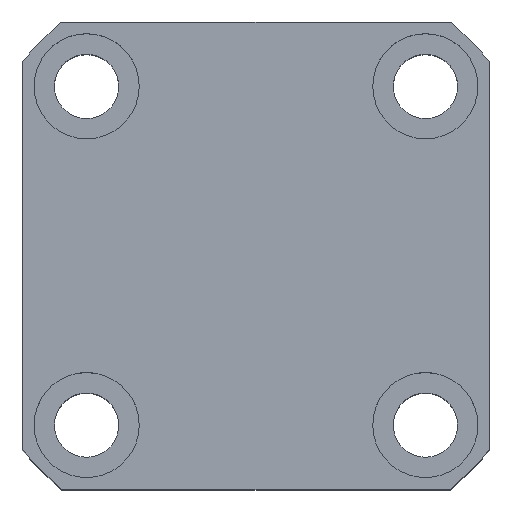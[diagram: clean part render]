
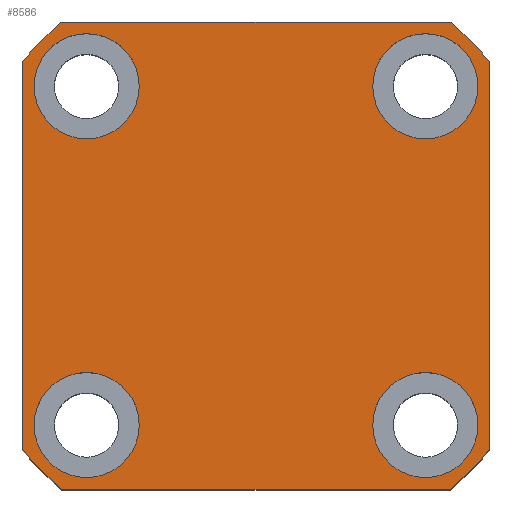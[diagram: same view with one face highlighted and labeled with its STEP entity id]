
A CAD part, top view. The second image highlights one B-rep face of the part: STEP entity #8586.
In plain terms, the highlighted planar face has unit normal (0, 0, 1).
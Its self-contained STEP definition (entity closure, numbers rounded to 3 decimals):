
#31 = DIRECTION ( 'NONE',  ( 1., 0., 0. ) ) ;
#62 = VERTEX_POINT ( 'NONE', #6701 ) ;
#151 = DIRECTION ( 'NONE',  ( 0., 0., 1. ) ) ;
#226 = EDGE_CURVE ( 'NONE', #2423, #568, #3670, .T. ) ;
#261 = FACE_BOUND ( 'NONE', #9337, .T. ) ;
#295 = DIRECTION ( 'NONE',  ( 0., 0., 1. ) ) ;
#407 = CARTESIAN_POINT ( 'NONE',  ( -33.226, -40., 35. ) ) ;
#480 = CARTESIAN_POINT ( 'NONE',  ( 0., 0., 35. ) ) ;
#497 = ORIENTED_EDGE ( 'NONE', *, *, #9793, .T. ) ;
#568 = VERTEX_POINT ( 'NONE', #3594 ) ;
#768 = CARTESIAN_POINT ( 'NONE',  ( -40., -33.226, 35. ) ) ;
#905 = LINE ( 'NONE', #2564, #3595 ) ;
#914 = ORIENTED_EDGE ( 'NONE', *, *, #6202, .F. ) ;
#962 = ORIENTED_EDGE ( 'NONE', *, *, #4582, .T. ) ;
#1023 = EDGE_CURVE ( 'NONE', #2615, #6637, #10231, .T. ) ;
#1214 = CARTESIAN_POINT ( 'NONE',  ( -29., 29., 35. ) ) ;
#1319 = VECTOR ( 'NONE', #2098, 1000. ) ;
#1386 = VERTEX_POINT ( 'NONE', #7138 ) ;
#1425 = CIRCLE ( 'NONE', #5067, 9. ) ;
#1481 = DIRECTION ( 'NONE',  ( 1., 0., 0. ) ) ;
#1530 = VERTEX_POINT ( 'NONE', #14520 ) ;
#1757 = CIRCLE ( 'NONE', #7074, 9. ) ;
#2005 = DIRECTION ( 'NONE',  ( 0., 0., 1. ) ) ;
#2035 = VERTEX_POINT ( 'NONE', #768 ) ;
#2039 = DIRECTION ( 'NONE',  ( 0., 0., 1. ) ) ;
#2061 = CARTESIAN_POINT ( 'NONE',  ( -38., 29., 35. ) ) ;
#2098 = DIRECTION ( 'NONE',  ( -1., 0., 0. ) ) ;
#2137 = CIRCLE ( 'NONE', #13275, 52. ) ;
#2279 = DIRECTION ( 'NONE',  ( 1., 0., 0. ) ) ;
#2280 = DIRECTION ( 'NONE',  ( 1., 0., 0. ) ) ;
#2331 = AXIS2_PLACEMENT_3D ( 'NONE', #8167, #9063, #2441 ) ;
#2404 = EDGE_CURVE ( 'NONE', #3916, #13128, #5070, .T. ) ;
#2423 = VERTEX_POINT ( 'NONE', #10089 ) ;
#2430 = DIRECTION ( 'NONE',  ( 0., 0., 1. ) ) ;
#2441 = DIRECTION ( 'NONE',  ( 1., 0., 0. ) ) ;
#2564 = CARTESIAN_POINT ( 'NONE',  ( 40., 33.226, 35. ) ) ;
#2615 = VERTEX_POINT ( 'NONE', #5973 ) ;
#2690 = EDGE_CURVE ( 'NONE', #12069, #1386, #9500, .T. ) ;
#2700 = DIRECTION ( 'NONE',  ( 0., 0., 1. ) ) ;
#3205 = DIRECTION ( 'NONE',  ( 1., 0., 0. ) ) ;
#3372 = CARTESIAN_POINT ( 'NONE',  ( -33.226, 40., 35. ) ) ;
#3516 = VERTEX_POINT ( 'NONE', #10138 ) ;
#3544 = DIRECTION ( 'NONE',  ( 0., 0., 1. ) ) ;
#3551 = ORIENTED_EDGE ( 'NONE', *, *, #12925, .T. ) ;
#3594 = CARTESIAN_POINT ( 'NONE',  ( 38., -29., 35. ) ) ;
#3595 = VECTOR ( 'NONE', #11715, 1000. ) ;
#3670 = CIRCLE ( 'NONE', #13120, 9. ) ;
#3827 = VERTEX_POINT ( 'NONE', #2061 ) ;
#3916 = VERTEX_POINT ( 'NONE', #7046 ) ;
#4138 = ORIENTED_EDGE ( 'NONE', *, *, #226, .F. ) ;
#4201 = VERTEX_POINT ( 'NONE', #7185 ) ;
#4258 = CARTESIAN_POINT ( 'NONE',  ( 0., 0., 35. ) ) ;
#4278 = DIRECTION ( 'NONE',  ( 0., -1., 0. ) ) ;
#4437 = CIRCLE ( 'NONE', #10197, 52. ) ;
#4494 = CIRCLE ( 'NONE', #6182, 9. ) ;
#4509 = EDGE_LOOP ( 'NONE', ( #6811, #962, #13611, #12595, #7572, #497, #3551, #10814 ) ) ;
#4582 = EDGE_CURVE ( 'NONE', #62, #2035, #6513, .T. ) ;
#4848 = DIRECTION ( 'NONE',  ( 1., 0., 0. ) ) ;
#5067 = AXIS2_PLACEMENT_3D ( 'NONE', #1214, #295, #6995 ) ;
#5070 = LINE ( 'NONE', #3372, #1319 ) ;
#5086 = DIRECTION ( 'NONE',  ( 1., 0., 0. ) ) ;
#5500 = DIRECTION ( 'NONE',  ( 1., 0., 0. ) ) ;
#5742 = ORIENTED_EDGE ( 'NONE', *, *, #9180, .F. ) ;
#5973 = CARTESIAN_POINT ( 'NONE',  ( -38., -29., 35. ) ) ;
#6017 = DIRECTION ( 'NONE',  ( 0., 0., 1. ) ) ;
#6182 = AXIS2_PLACEMENT_3D ( 'NONE', #8244, #7165, #10521 ) ;
#6202 = EDGE_CURVE ( 'NONE', #568, #2423, #10809, .T. ) ;
#6231 = CIRCLE ( 'NONE', #14263, 9. ) ;
#6262 = EDGE_CURVE ( 'NONE', #2035, #12069, #14217, .T. ) ;
#6513 = LINE ( 'NONE', #7753, #8303 ) ;
#6621 = ORIENTED_EDGE ( 'NONE', *, *, #10912, .F. ) ;
#6637 = VERTEX_POINT ( 'NONE', #8502 ) ;
#6676 = DIRECTION ( 'NONE',  ( 0., 0., 1. ) ) ;
#6701 = CARTESIAN_POINT ( 'NONE',  ( -40., 33.226, 35. ) ) ;
#6811 = ORIENTED_EDGE ( 'NONE', *, *, #7175, .T. ) ;
#6995 = DIRECTION ( 'NONE',  ( 1., 0., 0. ) ) ;
#7046 = CARTESIAN_POINT ( 'NONE',  ( 33.226, 40., 35. ) ) ;
#7074 = AXIS2_PLACEMENT_3D ( 'NONE', #11882, #14100, #7363 ) ;
#7138 = CARTESIAN_POINT ( 'NONE',  ( 33.226, -40., 35. ) ) ;
#7151 = ORIENTED_EDGE ( 'NONE', *, *, #1023, .F. ) ;
#7165 = DIRECTION ( 'NONE',  ( 0., 0., 1. ) ) ;
#7175 = EDGE_CURVE ( 'NONE', #13128, #62, #12205, .T. ) ;
#7185 = CARTESIAN_POINT ( 'NONE',  ( 40., -33.226, 35. ) ) ;
#7242 = ORIENTED_EDGE ( 'NONE', *, *, #13661, .F. ) ;
#7363 = DIRECTION ( 'NONE',  ( 1., 0., 0. ) ) ;
#7572 = ORIENTED_EDGE ( 'NONE', *, *, #10019, .T. ) ;
#7753 = CARTESIAN_POINT ( 'NONE',  ( -40., 33.226, 35. ) ) ;
#7821 = CARTESIAN_POINT ( 'NONE',  ( 0., 0., 35. ) ) ;
#7932 = ORIENTED_EDGE ( 'NONE', *, *, #12629, .F. ) ;
#7942 = DIRECTION ( 'NONE',  ( 1., 0., 0. ) ) ;
#8167 = CARTESIAN_POINT ( 'NONE',  ( 29., -29., 35. ) ) ;
#8244 = CARTESIAN_POINT ( 'NONE',  ( -29., 29., 35. ) ) ;
#8303 = VECTOR ( 'NONE', #4278, 1000. ) ;
#8305 = CARTESIAN_POINT ( 'NONE',  ( -29., -29., 35. ) ) ;
#8502 = CARTESIAN_POINT ( 'NONE',  ( -20., -29., 35. ) ) ;
#8586 = ADVANCED_FACE ( 'NONE', ( #13632, #10933, #9841, #261, #11668 ), #14408, .T. ) ;
#8769 = ORIENTED_EDGE ( 'NONE', *, *, #12833, .F. ) ;
#9063 = DIRECTION ( 'NONE',  ( 0., 0., 1. ) ) ;
#9137 = VECTOR ( 'NONE', #4848, 1000. ) ;
#9180 = EDGE_CURVE ( 'NONE', #13828, #3827, #4494, .T. ) ;
#9194 = CARTESIAN_POINT ( 'NONE',  ( 29., -29., 35. ) ) ;
#9337 = EDGE_LOOP ( 'NONE', ( #7242, #6621 ) ) ;
#9500 = LINE ( 'NONE', #407, #9137 ) ;
#9793 = EDGE_CURVE ( 'NONE', #4201, #3516, #905, .T. ) ;
#9796 = AXIS2_PLACEMENT_3D ( 'NONE', #10482, #2005, #5500 ) ;
#9811 = CIRCLE ( 'NONE', #11672, 9. ) ;
#9841 = FACE_BOUND ( 'NONE', #14312, .T. ) ;
#10019 = EDGE_CURVE ( 'NONE', #1386, #4201, #2137, .T. ) ;
#10089 = CARTESIAN_POINT ( 'NONE',  ( 20., -29., 35. ) ) ;
#10138 = CARTESIAN_POINT ( 'NONE',  ( 40., 33.226, 35. ) ) ;
#10197 = AXIS2_PLACEMENT_3D ( 'NONE', #480, #2700, #11756 ) ;
#10231 = CIRCLE ( 'NONE', #12950, 9. ) ;
#10276 = DIRECTION ( 'NONE',  ( 0., 0., 1. ) ) ;
#10471 = CARTESIAN_POINT ( 'NONE',  ( -33.226, -40., 35. ) ) ;
#10482 = CARTESIAN_POINT ( 'NONE',  ( 0., 0., 35. ) ) ;
#10521 = DIRECTION ( 'NONE',  ( 1., 0., 0. ) ) ;
#10741 = CARTESIAN_POINT ( 'NONE',  ( 20., 29., 35. ) ) ;
#10746 = CARTESIAN_POINT ( 'NONE',  ( -33.226, 40., 35. ) ) ;
#10809 = CIRCLE ( 'NONE', #2331, 9. ) ;
#10814 = ORIENTED_EDGE ( 'NONE', *, *, #2404, .T. ) ;
#10912 = EDGE_CURVE ( 'NONE', #14228, #1530, #9811, .T. ) ;
#10933 = FACE_BOUND ( 'NONE', #12861, .T. ) ;
#10976 = EDGE_LOOP ( 'NONE', ( #914, #4138 ) ) ;
#11539 = AXIS2_PLACEMENT_3D ( 'NONE', #12731, #3544, #31 ) ;
#11668 = FACE_OUTER_BOUND ( 'NONE', #4509, .T. ) ;
#11672 = AXIS2_PLACEMENT_3D ( 'NONE', #13019, #6017, #5086 ) ;
#11715 = DIRECTION ( 'NONE',  ( 0., 1., 0. ) ) ;
#11756 = DIRECTION ( 'NONE',  ( 1., 0., 0. ) ) ;
#11882 = CARTESIAN_POINT ( 'NONE',  ( 29., 29., 35. ) ) ;
#12052 = AXIS2_PLACEMENT_3D ( 'NONE', #4258, #2039, #3205 ) ;
#12069 = VERTEX_POINT ( 'NONE', #10471 ) ;
#12205 = CIRCLE ( 'NONE', #12052, 52. ) ;
#12374 = CARTESIAN_POINT ( 'NONE',  ( -29., -29., 35. ) ) ;
#12595 = ORIENTED_EDGE ( 'NONE', *, *, #2690, .T. ) ;
#12629 = EDGE_CURVE ( 'NONE', #6637, #2615, #6231, .T. ) ;
#12731 = CARTESIAN_POINT ( 'NONE',  ( 0., 0., 35. ) ) ;
#12833 = EDGE_CURVE ( 'NONE', #3827, #13828, #1425, .T. ) ;
#12861 = EDGE_LOOP ( 'NONE', ( #7932, #7151 ) ) ;
#12925 = EDGE_CURVE ( 'NONE', #3516, #3916, #4437, .T. ) ;
#12950 = AXIS2_PLACEMENT_3D ( 'NONE', #8305, #2430, #1481 ) ;
#13019 = CARTESIAN_POINT ( 'NONE',  ( 29., 29., 35. ) ) ;
#13120 = AXIS2_PLACEMENT_3D ( 'NONE', #9194, #151, #7942 ) ;
#13128 = VERTEX_POINT ( 'NONE', #10746 ) ;
#13275 = AXIS2_PLACEMENT_3D ( 'NONE', #7821, #10276, #2280 ) ;
#13611 = ORIENTED_EDGE ( 'NONE', *, *, #6262, .T. ) ;
#13632 = FACE_BOUND ( 'NONE', #10976, .T. ) ;
#13661 = EDGE_CURVE ( 'NONE', #1530, #14228, #1757, .T. ) ;
#13828 = VERTEX_POINT ( 'NONE', #14320 ) ;
#14100 = DIRECTION ( 'NONE',  ( 0., 0., 1. ) ) ;
#14217 = CIRCLE ( 'NONE', #11539, 52. ) ;
#14228 = VERTEX_POINT ( 'NONE', #10741 ) ;
#14263 = AXIS2_PLACEMENT_3D ( 'NONE', #12374, #6676, #2279 ) ;
#14312 = EDGE_LOOP ( 'NONE', ( #5742, #8769 ) ) ;
#14320 = CARTESIAN_POINT ( 'NONE',  ( -20., 29., 35. ) ) ;
#14408 = PLANE ( 'NONE',  #9796 ) ;
#14520 = CARTESIAN_POINT ( 'NONE',  ( 38., 29., 35. ) ) ;
